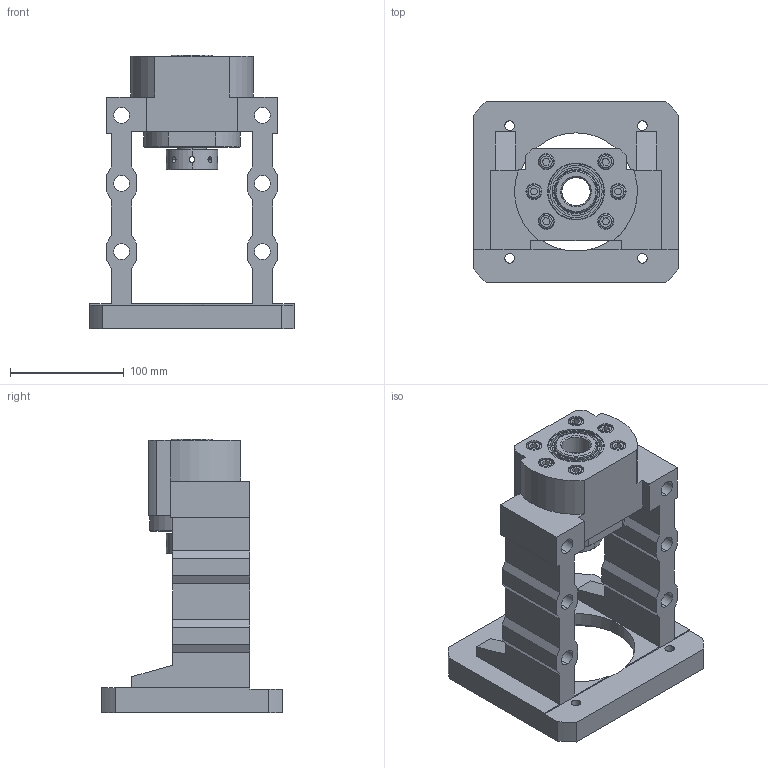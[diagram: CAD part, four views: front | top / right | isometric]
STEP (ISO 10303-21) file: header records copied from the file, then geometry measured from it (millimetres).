
FILE_DESCRIPTION (( 'STEP AP203' ), '1' );
FILE_NAME ('MBCK25-I²Õ¦X¥ó.STEP', '2024-09-05T08:27:15', ( '' ), ( '' ), 'SwSTEP 2.0', 'SolidWorks 2018', '' );
FILE_SCHEMA (( 'CONFIG_CONTROL_DESIGN' ));
Length unit declared in the file: millimetre
Products named in the file (1): MBCK25-I組合件
Bounding box: 180 x 160 x 241 mm (x, y, z)
Surface area: 211550.9 mm2 (no closed solid volume)
Topology: 0 solids, 21 shells, 325 faces, 883 edges, 575 vertices
Faces by surface type: plane 133, cylinder 124, cone 42, torus 26
Entity records: 11106 total; most frequent: CARTESIAN_POINT 2688, DIRECTION 1818, ORIENTED_EDGE 1595, EDGE_CURVE 875, AXIS2_PLACEMENT_3D 685, VERTEX_POINT 575, LINE 448, VECTOR 448
